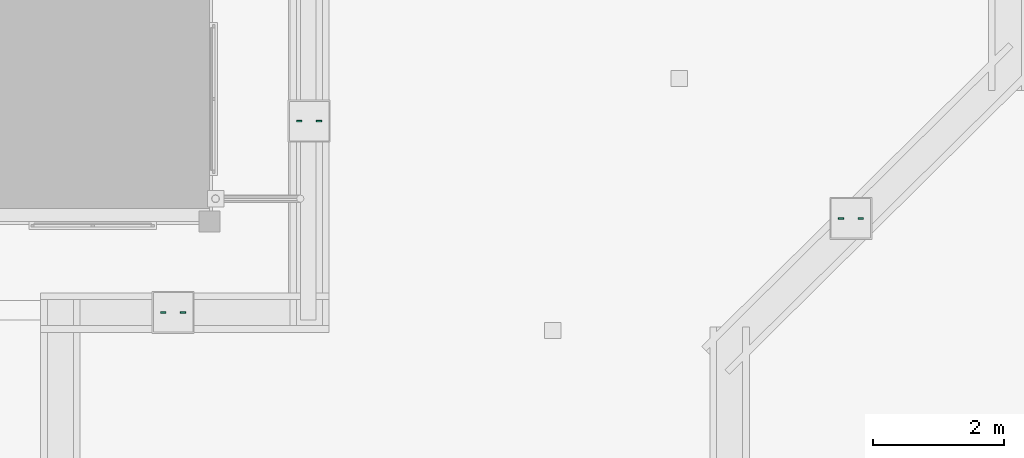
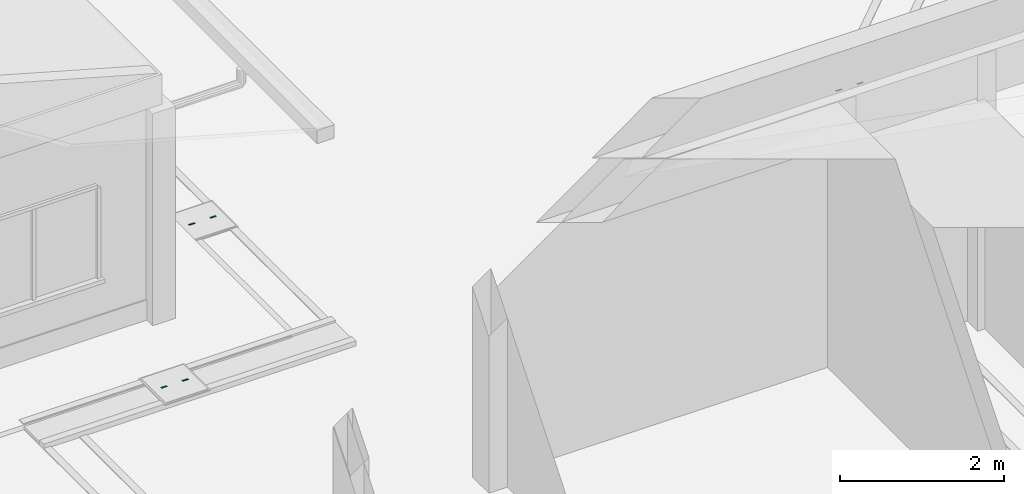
# One storey, part 135 of 177: 6 distribution chamber elements.
"""IFC4 building model written with IfcOpenShell, lengths in metres."""

from ifc_helpers import new_model, si_unit, origin, origin_with_axes, place, context, subcontext, project, spatial, triangles, element, save


model = new_model("IFC4")

# Units and contexts
model_context = context("Model", 3, precision=1e-05, world=origin_with_axes())
body_context = subcontext(model_context, "Body", "Model", "MODEL_VIEW")
ifc_project = project(units=[si_unit("LENGTHUNIT", "METRE"), si_unit("AREAUNIT", "SQUARE_METRE"), si_unit("VOLUMEUNIT", "CUBIC_METRE"), si_unit("PLANEANGLEUNIT", "RADIAN")], contexts=[model_context])

# Site, building, storey
site_placement = place(None, origin_with_axes())
site = spatial("IfcSite", under=ifc_project, at=site_placement, Name="Predio Los Mangos - Morales, San Martín", CompositionType="ELEMENT")
building_placement = place(site_placement, origin())
building = spatial("IfcBuilding", under=site, at=building_placement, Name="Hogar de Refugio Temporal", CompositionType="ELEMENT")
storey_placement = place(building_placement, origin())
storey = spatial("IfcBuildingStorey", under=building, at=storey_placement, Name="NIVEL 1 (NPT +0.00)", CompositionType="ELEMENT", Elevation=0.0)

# Distribution chamber elements
distribution_chamber_element_1_placement = place(storey_placement, origin())
element("IfcDistributionChamberElement", 1, at=distribution_chamber_element_1_placement, inside=storey, Name="tapa_insp_asa", ObjectType="Tapa de inspección", PredefinedType="INSPECTIONCHAMBER", context=body_context, shape_type="Tessellation", body=[
    triangles([(32.925, 27.818, 0.104), (33.005, 27.818, 0.104), (33.005, 27.842, 0.104), (32.925, 27.842, 0.104), (32.925, 27.818, 0.108), (33.005, 27.818, 0.108), (33.005, 27.842, 0.108), (32.925, 27.842, 0.108)], [[1, 4, 3], [1, 3, 2], [5, 6, 7], [5, 7, 8], [1, 2, 6], [1, 6, 5], [2, 3, 7], [2, 7, 6], [3, 4, 8], [3, 8, 7], [4, 1, 5], [4, 5, 8]]),
])
distribution_chamber_element_2_placement = place(storey_placement, origin())
element("IfcDistributionChamberElement", 2, at=distribution_chamber_element_2_placement, inside=storey, Name="tapa_insp_asa", ObjectType="Tapa de inspección", PredefinedType="INSPECTIONCHAMBER", context=body_context, shape_type="Tessellation", body=[
    triangles([(33.225, 27.818, 0.104), (33.305, 27.818, 0.104), (33.305, 27.842, 0.104), (33.225, 27.842, 0.104), (33.225, 27.818, 0.108), (33.305, 27.818, 0.108), (33.305, 27.842, 0.108), (33.225, 27.842, 0.108)], [[1, 4, 3], [1, 3, 2], [5, 6, 7], [5, 7, 8], [1, 2, 6], [1, 6, 5], [2, 3, 7], [2, 7, 6], [3, 4, 8], [3, 8, 7], [4, 1, 5], [4, 5, 8]]),
])
distribution_chamber_element_3_placement = place(storey_placement, origin())
element("IfcDistributionChamberElement", 3, at=distribution_chamber_element_3_placement, inside=storey, Name="tapa_insp_asa", ObjectType="Tapa de inspección", PredefinedType="INSPECTIONCHAMBER", context=body_context, shape_type="Tessellation", body=[
    triangles([(30.853, 24.907, 0.17), (30.933, 24.907, 0.17), (30.933, 24.931, 0.17), (30.853, 24.931, 0.17), (30.853, 24.907, 0.174), (30.933, 24.907, 0.174), (30.933, 24.931, 0.174), (30.853, 24.931, 0.174)], [[1, 4, 3], [1, 3, 2], [5, 6, 7], [5, 7, 8], [1, 2, 6], [1, 6, 5], [2, 3, 7], [2, 7, 6], [3, 4, 8], [3, 8, 7], [4, 1, 5], [4, 5, 8]]),
])
distribution_chamber_element_4_placement = place(storey_placement, origin())
element("IfcDistributionChamberElement", 4, at=distribution_chamber_element_4_placement, inside=storey, Name="tapa_insp_asa", ObjectType="Tapa de inspección", PredefinedType="INSPECTIONCHAMBER", context=body_context, shape_type="Tessellation", body=[
    triangles([(31.153, 24.907, 0.17), (31.233, 24.907, 0.17), (31.233, 24.931, 0.17), (31.153, 24.931, 0.17), (31.153, 24.907, 0.174), (31.233, 24.907, 0.174), (31.233, 24.931, 0.174), (31.153, 24.931, 0.174)], [[1, 4, 3], [1, 3, 2], [5, 6, 7], [5, 7, 8], [1, 2, 6], [1, 6, 5], [2, 3, 7], [2, 7, 6], [3, 4, 8], [3, 8, 7], [4, 1, 5], [4, 5, 8]]),
])
distribution_chamber_element_5_placement = place(storey_placement, origin())
element("IfcDistributionChamberElement", 5, at=distribution_chamber_element_5_placement, inside=storey, Name="tapa_insp_asa", ObjectType="Tapa de inspección", PredefinedType="INSPECTIONCHAMBER", context=body_context, shape_type="Tessellation", body=[
    triangles([(41.171, 26.339, 0.104), (41.251, 26.339, 0.104), (41.251, 26.363, 0.104), (41.171, 26.363, 0.104), (41.171, 26.339, 0.108), (41.251, 26.339, 0.108), (41.251, 26.363, 0.108), (41.171, 26.363, 0.108)], [[1, 4, 3], [1, 3, 2], [5, 6, 7], [5, 7, 8], [1, 2, 6], [1, 6, 5], [2, 3, 7], [2, 7, 6], [3, 4, 8], [3, 8, 7], [4, 1, 5], [4, 5, 8]]),
])
distribution_chamber_element_6_placement = place(storey_placement, origin())
element("IfcDistributionChamberElement", 6, at=distribution_chamber_element_6_placement, inside=storey, Name="tapa_insp_asa", ObjectType="Tapa de inspección", PredefinedType="INSPECTIONCHAMBER", context=body_context, shape_type="Tessellation", body=[
    triangles([(41.471, 26.339, 0.104), (41.551, 26.339, 0.104), (41.551, 26.363, 0.104), (41.471, 26.363, 0.104), (41.471, 26.339, 0.108), (41.551, 26.339, 0.108), (41.551, 26.363, 0.108), (41.471, 26.363, 0.108)], [[1, 4, 3], [1, 3, 2], [5, 6, 7], [5, 7, 8], [1, 2, 6], [1, 6, 5], [2, 3, 7], [2, 7, 6], [3, 4, 8], [3, 8, 7], [4, 1, 5], [4, 5, 8]]),
])

save(model, "model.ifc")
